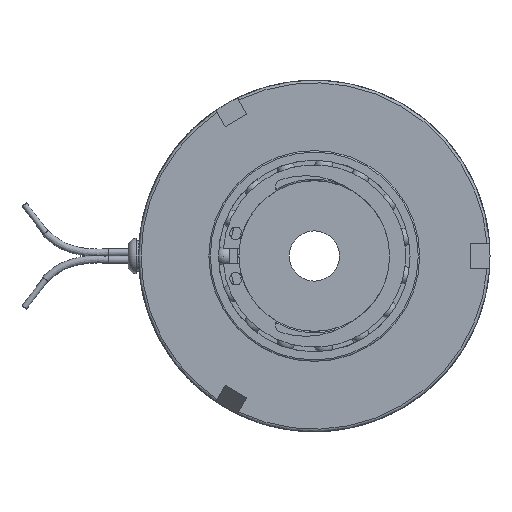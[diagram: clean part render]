
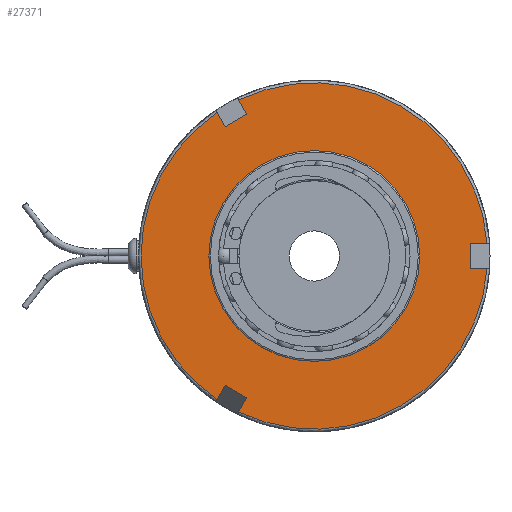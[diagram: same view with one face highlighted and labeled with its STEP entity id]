
A CAD part, left-side view. The second image highlights one B-rep face of the part: STEP entity #27371.
In plain terms, the highlighted planar face has unit normal (-1, 0, 0).
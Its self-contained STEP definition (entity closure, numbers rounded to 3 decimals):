
#1546=FACE_BOUND('',#4413,.T.);
#1743=PLANE('',#28979);
#2961=FACE_OUTER_BOUND('',#4412,.T.);
#4412=EDGE_LOOP('',(#17888,#17889,#17890,#17891,#17892,#17893,#17894,#17895,
#17896,#17897,#17898,#17899));
#4413=EDGE_LOOP('',(#17900));
#6064=CIRCLE('',#28980,34.5);
#6065=CIRCLE('',#28981,34.5);
#6066=CIRCLE('',#28982,34.5);
#6067=CIRCLE('',#28983,21.);
#7628=LINE('',#43038,#8966);
#7631=LINE('',#43055,#8969);
#7633=LINE('',#43061,#8971);
#7635=LINE('',#43077,#8973);
#7638=LINE('',#43094,#8976);
#7640=LINE('',#43100,#8978);
#7642=LINE('',#43118,#8980);
#7643=LINE('',#43120,#8981);
#7644=LINE('',#43122,#8982);
#8966=VECTOR('',#33311,10.);
#8969=VECTOR('',#33316,10.);
#8971=VECTOR('',#33322,10.);
#8973=VECTOR('',#33326,10.);
#8976=VECTOR('',#33331,10.);
#8978=VECTOR('',#33337,10.);
#8980=VECTOR('',#33345,10.);
#8981=VECTOR('',#33346,10.);
#8982=VECTOR('',#33347,10.);
#10369=VERTEX_POINT('',#43036);
#10370=VERTEX_POINT('',#43037);
#10373=VERTEX_POINT('',#43054);
#10375=VERTEX_POINT('',#43060);
#10377=VERTEX_POINT('',#43075);
#10378=VERTEX_POINT('',#43076);
#10381=VERTEX_POINT('',#43093);
#10383=VERTEX_POINT('',#43099);
#10385=VERTEX_POINT('',#43115);
#10386=VERTEX_POINT('',#43117);
#10387=VERTEX_POINT('',#43119);
#10388=VERTEX_POINT('',#43121);
#10389=VERTEX_POINT('',#43124);
#13343=EDGE_CURVE('',#10369,#10370,#7628,.T.);
#13347=EDGE_CURVE('',#10373,#10369,#7631,.T.);
#13350=EDGE_CURVE('',#10375,#10373,#7633,.T.);
#13353=EDGE_CURVE('',#10377,#10378,#7635,.T.);
#13357=EDGE_CURVE('',#10381,#10377,#7638,.T.);
#13360=EDGE_CURVE('',#10383,#10381,#7640,.T.);
#13363=EDGE_CURVE('',#10383,#10370,#6064,.T.);
#13364=EDGE_CURVE('',#10385,#10378,#6065,.T.);
#13365=EDGE_CURVE('',#10385,#10386,#7642,.T.);
#13366=EDGE_CURVE('',#10386,#10387,#7643,.T.);
#13367=EDGE_CURVE('',#10387,#10388,#7644,.T.);
#13368=EDGE_CURVE('',#10375,#10388,#6066,.T.);
#13369=EDGE_CURVE('',#10389,#10389,#6067,.T.);
#17888=ORIENTED_EDGE('',*,*,#13350,.T.);
#17889=ORIENTED_EDGE('',*,*,#13347,.T.);
#17890=ORIENTED_EDGE('',*,*,#13343,.T.);
#17891=ORIENTED_EDGE('',*,*,#13363,.F.);
#17892=ORIENTED_EDGE('',*,*,#13360,.T.);
#17893=ORIENTED_EDGE('',*,*,#13357,.T.);
#17894=ORIENTED_EDGE('',*,*,#13353,.T.);
#17895=ORIENTED_EDGE('',*,*,#13364,.F.);
#17896=ORIENTED_EDGE('',*,*,#13365,.T.);
#17897=ORIENTED_EDGE('',*,*,#13366,.T.);
#17898=ORIENTED_EDGE('',*,*,#13367,.T.);
#17899=ORIENTED_EDGE('',*,*,#13368,.F.);
#17900=ORIENTED_EDGE('',*,*,#13369,.T.);
#27371=ADVANCED_FACE('',(#2961,#1546),#1743,.T.);
#28979=AXIS2_PLACEMENT_3D('',#43113,#33339,#33340);
#28980=AXIS2_PLACEMENT_3D('',#43114,#33341,#33342);
#28981=AXIS2_PLACEMENT_3D('',#43116,#33343,#33344);
#28982=AXIS2_PLACEMENT_3D('',#43123,#33348,#33349);
#28983=AXIS2_PLACEMENT_3D('',#43125,#33350,#33351);
#33311=DIRECTION('',(0.,0.5,0.866));
#33316=DIRECTION('',(0.,0.866,-0.5));
#33322=DIRECTION('',(0.,-0.5,-0.866));
#33326=DIRECTION('',(0.,0.5,-0.866));
#33331=DIRECTION('',(0.,-0.866,-0.5));
#33337=DIRECTION('',(0.,-0.5,0.866));
#33339=DIRECTION('center_axis',(-1.,0.,0.));
#33340=DIRECTION('ref_axis',(0.,0.,
1.));
#33341=DIRECTION('center_axis',(1.,0.,0.));
#33342=DIRECTION('ref_axis',(0.,-1.,0.));
#33343=DIRECTION('center_axis',(1.,0.,0.));
#33344=DIRECTION('ref_axis',(0.,-1.,0.));
#33345=DIRECTION('',(0.,1.,0.));
#33346=DIRECTION('',(0.,0.,1.));
#33347=DIRECTION('',(0.,-1.,0.));
#33348=DIRECTION('center_axis',(1.,0.,0.));
#33349=DIRECTION('ref_axis',(0.,-1.,0.));
#33350=DIRECTION('center_axis',(1.,0.,0.));
#33351=DIRECTION('ref_axis',(0.,1.,0.));
#43036=CARTESIAN_POINT('',(-15.75,17.751,25.745));
#43037=CARTESIAN_POINT('',(-15.75,19.37,28.549));
#43038=CARTESIAN_POINT('',(-15.75,14.105,19.431));
#43054=CARTESIAN_POINT('',(-15.75,13.421,28.245));
#43055=CARTESIAN_POINT('',(-15.75,26.086,20.933));
#43060=CARTESIAN_POINT('',(-15.75,15.04,31.049));
#43061=CARTESIAN_POINT('',(-15.75,9.775,21.931));
#43075=CARTESIAN_POINT('',(-15.75,13.421,-28.245));
#43076=CARTESIAN_POINT('',(-15.75,15.04,-31.049));
#43077=CARTESIAN_POINT('',(-15.75,9.775,-21.931));
#43093=CARTESIAN_POINT('',(-15.75,17.751,-25.745));
#43094=CARTESIAN_POINT('',(-15.75,26.086,-20.933));
#43099=CARTESIAN_POINT('',(-15.75,19.37,-28.549));
#43100=CARTESIAN_POINT('',(-15.75,14.105,-19.431));
#43113=CARTESIAN_POINT('Origin',(-15.75,28.,0.));
#43114=CARTESIAN_POINT('Origin',(-15.75,0.,0.));
#43115=CARTESIAN_POINT('',(-15.75,-34.409,-2.5));
#43116=CARTESIAN_POINT('Origin',(-15.75,0.,0.));
#43117=CARTESIAN_POINT('',(-15.75,-31.172,-2.5));
#43118=CARTESIAN_POINT('',(-15.75,-2.88,-2.5));
#43119=CARTESIAN_POINT('',(-15.75,-31.172,2.5));
#43120=CARTESIAN_POINT('',(-15.75,-31.172,0.));
#43121=CARTESIAN_POINT('',(-15.75,-34.409,2.5));
#43122=CARTESIAN_POINT('',(-15.75,-2.88,2.5));
#43123=CARTESIAN_POINT('Origin',(-15.75,0.,0.));
#43124=CARTESIAN_POINT('',(-15.75,-21.,0.));
#43125=CARTESIAN_POINT('Origin',(-15.75,0.,0.));
